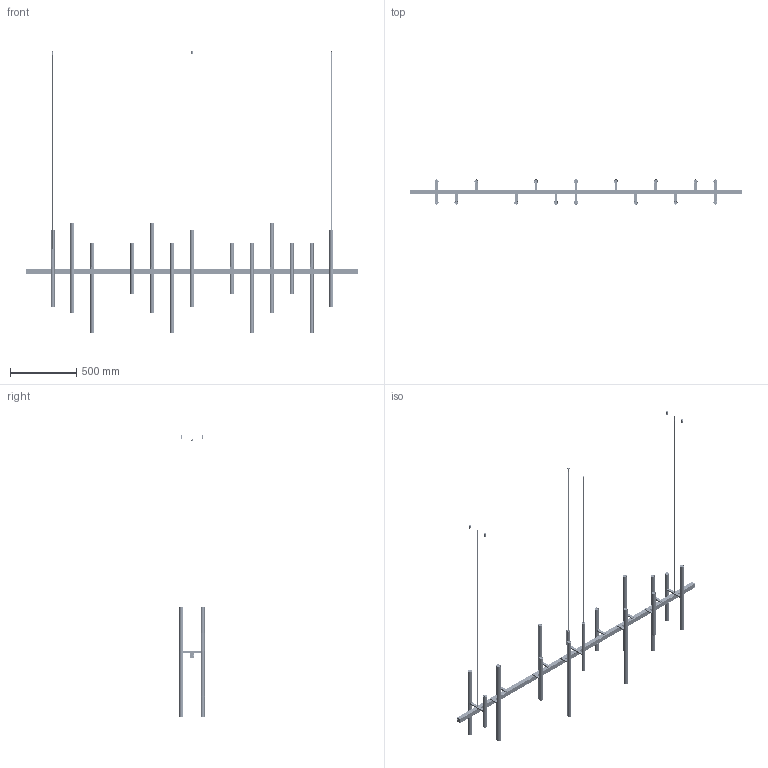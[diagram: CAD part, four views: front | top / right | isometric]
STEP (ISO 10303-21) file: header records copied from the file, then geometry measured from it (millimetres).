
FILE_DESCRIPTION(/* description */ ('EQUALIZER 2500 Concrete Dali-/Push-Dim'),/* implementation_level */ '2;1');
FILE_NAME(/* name */ '3D_EQUALIZER_2500.stp',/* time_stamp */ '2026-10-21T08:35:24+02:00',/* author */ ('Dries'),/* organization */ ('DARK'),/* preprocessor_version */ 'ST-DEVELOPER v20.1',/* originating_system */ 'Autodesk Inventor 2026',/* authorisation */ '');
FILE_SCHEMA (('AUTOMOTIVE_DESIGN { 1 0 10303 214 3 1 1 }'));
Length unit declared in the file: millimetre
Products named in the file (39): 456-2; NINZA Profie - 2496mm; NINZA Deksel - Bottom 2496mm; NINZA Eindplaat; NINZA Deksel - Top 2496mm; 456-01; 456-02; 456-006; 456-03; 456-71; 456-001; 456-008; DIN 912 M3 x 70 zwart; 456-028; DIN 916 M3 x 6; 456-005; 456-50; 456-002; 456-003; 456-004; 120-1500-000018; 130-9000-000075; SL-RF-AA-022A; Din 912 M2.5 x 12; 456-007; 456-014; 456-015; DIN 7991 M3 x 30; 190-1000-000008; DIN 7991 M3 x 20; 456-029; 456-030; 456-031; 456-036; 190-1000-000009; 190-1000-000001; 190-2012-001500; Coaxial cable - 1650mm; 225-009
Assembly tree (141 placements, depth 4):
  456-2
    NINZA Profie - 2496mm
    NINZA Deksel - Bottom 2496mm
    NINZA Eindplaat  x2
    NINZA Deksel - Top 2496mm
    456-01  x3
      456-71
        456-001
        456-008
        DIN 912 M3 x 70 zwart  x2
        DIN 7991 M3 x 20  x2
        456-028
        DIN 916 M3 x 6
      456-50
        456-002
        456-003
        456-004
        120-1500-000018
        130-9000-000075
        SL-RF-AA-022A
        Din 912 M2.5 x 12  x2
      456-005
    456-02  x3
      456-71
        456-001
        456-008
        DIN 912 M3 x 70 zwart  x2
        DIN 7991 M3 x 20  x2
        456-028
        DIN 916 M3 x 6
      456-50
        456-002
        456-003
        456-004
        120-1500-000018
        130-9000-000075
        SL-RF-AA-022A
        Din 912 M2.5 x 12  x2
      456-006
    456-03  x4
      456-71
        456-001
        456-008
        DIN 912 M3 x 70 zwart  x2
        DIN 7991 M3 x 20  x2
        456-028
        DIN 916 M3 x 6
      456-50
        456-002
        456-003
        456-004
        120-1500-000018
        130-9000-000075
        SL-RF-AA-022A
        Din 912 M2.5 x 12  x2
      456-005
      456-007
    456-014  x3
    456-015  x13
    DIN 7991 M3 x 30  x2
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Bounding box: 2500 x 190 x 2128.7 mm (x, y, z)
Volume: 4474460 mm3; surface area: 2945122.8 mm2
Topology: 360 solids, 360 shells, 10610 faces, 27044 edges, 17794 vertices
Faces by surface type: plane 6264, cylinder 1907, bspline 1420, cone 879, torus 140
Full cylindrical faces by diameter (mm): 1 x20, 1.2 x6, 2 x24, 2.013 x80, 2.35 x40, 2.459 x57, 2.5 x40, 3 x144, 3.2 x4, 3.5 x113, 4 x6, 4.4 x6, 4.5 x40, 4.8 x6, 5.5 x20, 6 x67, 6.5 x2, 7 x36, 7.5 x20, 8 x34, 8.917 x6, 9.5 x7, 10 x18, 11 x1, 12 x14, 16 x6, 17 x13, 20 x62, 22 x20, 22.376 x24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
Entity records: 40717 total; most frequent: CARTESIAN_POINT 9097, ORIENTED_EDGE 6210, DIRECTION 6150, EDGE_CURVE 3105, AXIS2_PLACEMENT_3D 2205, VERTEX_POINT 2051, LINE 1740, VECTOR 1740
